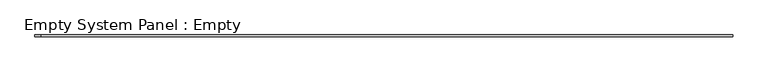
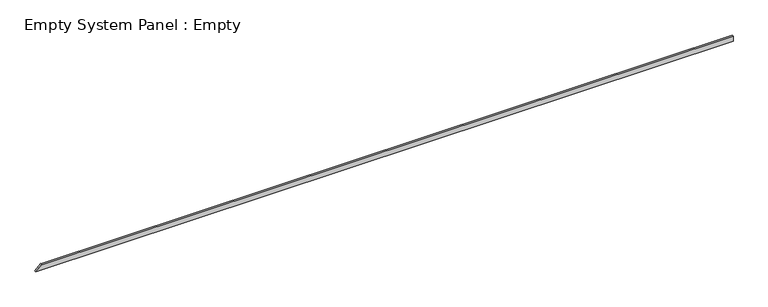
"""IFC4 building model written with IfcOpenShell, lengths in millimetres: plate geometry, Empty System Panel : Empty."""

from ifc_helpers import new_model, si_unit, frame, origin, place, context, project, spatial, polyline, outline, extrude, source, transform, mapped, element, save


def empty_system_panel_empty_255742c4(model_context):
    return source(origin(), model_context, "Body", "SweptSolid", [
        extrude(outline(polyline([(0.0, -20139.9019642), (0.0, 20139.9019642), (310.0, 20139.9019642), (310.0, -19813.5529677), (330.0, -19813.5529677), (0.0, -20139.9019642)])), frame((0.0, -50.0, 0.0), z_axis=(0.0, 1.0, 0.0), x_axis=(0.0, 0.0, 1.0)), (0.0, 0.0, 1.0), 100.0),
    ])


if __name__ == "__main__":
    model = new_model("IFC4")
    model_context = context("Model", 3, world=origin())
    ifc_project = project(units=[si_unit("LENGTHUNIT", "METRE", prefix="MILLI")], contexts=[model_context])
    site = spatial("IfcSite", under=ifc_project)
    building = spatial("IfcBuilding", under=site)
    placement = place(None, origin())
    empty_system_panel_empty_shape = empty_system_panel_empty_255742c4(model_context)
    element("IfcPlate", 1, ObjectType="Empty System Panel : Empty", at=placement, inside=building, context=model_context, shape_type="MappedRepresentation", body=[
        mapped(empty_system_panel_empty_shape, transform((0.0, 0.0, 0.0), x_axis=(1.0, 0.0, 0.0), y_axis=(0.0, 1.0, 0.0), z_axis=(0.0, 0.0, 1.0))),
    ])
    save(model, "model.ifc")
